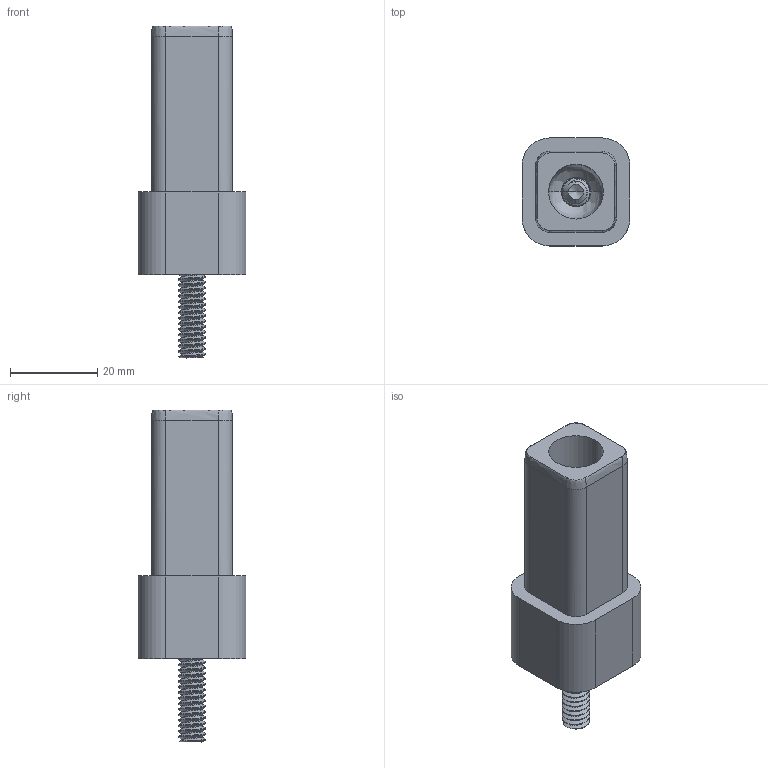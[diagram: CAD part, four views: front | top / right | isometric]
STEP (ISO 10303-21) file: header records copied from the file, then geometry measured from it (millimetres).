
FILE_DESCRIPTION (( 'STEP AP203' ), '1' );
FILE_NAME ('FDPCK-MCS.75-END-STUD-L.step', '2019-09-11T18:35:57', ( 'ydmin' ), ( '' ), 'SwSTEP 2.0', 'SolidWorks 2017', '' );
FILE_SCHEMA (( 'CONFIG_CONTROL_DESIGN' ));
Length unit declared in the file: inch
Products named in the file (1): FDPCK-MCS.75-END-STUD-L
Bounding box: 24.77 x 24.77 x 76.2 mm (x, y, z)
Volume: 19695.1 mm3; surface area: 9150.5 mm2
Topology: 3 solids, 3 shells, 135 faces, 354 edges, 223 vertices
Faces by surface type: cylinder 70, plane 26, bspline 21, cone 18
Entity records: 12370 total; most frequent: CARTESIAN_POINT 9500, ORIENTED_EDGE 700, DIRECTION 464, EDGE_CURVE 350, VERTEX_POINT 223, AXIS2_PLACEMENT_3D 161, LINE 142, VECTOR 142
